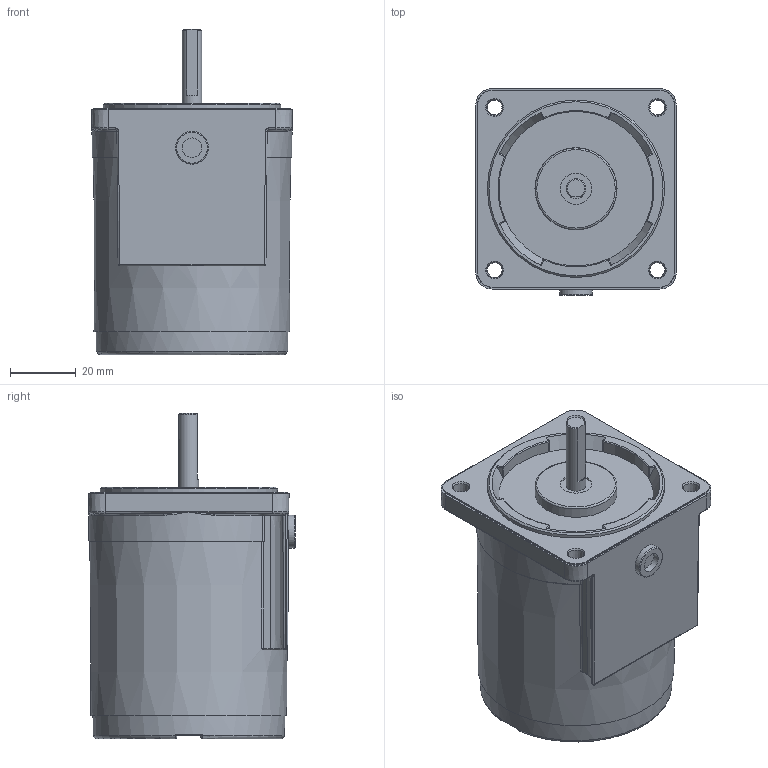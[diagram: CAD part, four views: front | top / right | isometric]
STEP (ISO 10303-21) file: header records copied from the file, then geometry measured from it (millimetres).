
FILE_DESCRIPTION (( 'STEP AP214' ), '1' );
FILE_NAME ('6IDD､ｱ-6.STEP', '2025-01-13T01:27:06', ( '' ), ( '' ), 'SwSTEP 2.0', 'SolidWorks 2024', '' );
FILE_SCHEMA (( 'AUTOMOTIVE_DESIGN' ));
Length unit declared in the file: millimetre
Products named in the file (1): 6IDDㅁ-6
Bounding box: 61 x 62.94 x 99 mm (x, y, z)
Volume: 216990.9 mm3; surface area: 24470.8 mm2
Topology: 1 solids, 1 shells, 337 faces, 742 edges, 418 vertices
Faces by surface type: bspline 74, plane 72, cylinder 68, torus 56, cone 45, sphere 22
Full cylindrical faces by diameter (mm): 4.5 x4, 6 x2, 9.5 x1, 10 x1, 54 x1
Entity records: 9964 total; most frequent: CARTESIAN_POINT 3371, DIRECTION 1351, ORIENTED_EDGE 1304, EDGE_CURVE 652, AXIS2_PLACEMENT_3D 600, EDGE_LOOP 430, VERTEX_POINT 402, FACE_OUTER_BOUND 366
